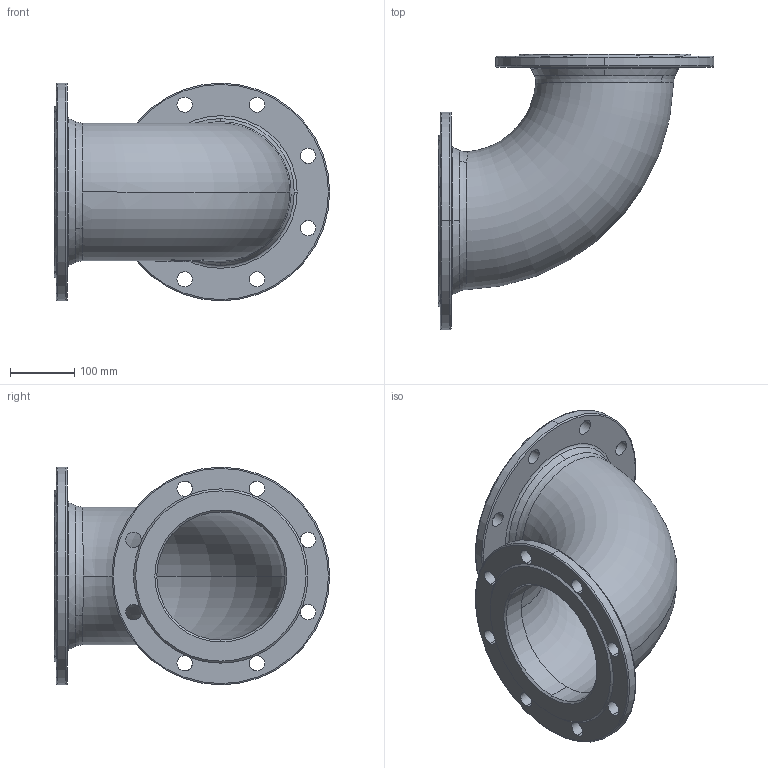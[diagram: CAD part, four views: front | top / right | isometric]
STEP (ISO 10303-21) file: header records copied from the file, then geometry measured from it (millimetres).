
FILE_DESCRIPTION (( 'STEP AP203' ), '1' );
FILE_NAME ('O_712_0610_DN200_0X_REV01.step', '2021-11-19T09:57:00', ( '' ), ( '' ), 'SwSTEP 2.0', 'SolidWorks 2019', '' );
FILE_SCHEMA (( 'CONFIG_CONTROL_DESIGN' ));
Length unit declared in the file: millimetre
Products named in the file (1): O_712_0610_DN200_0X_REV01
Bounding box: 430 x 430 x 340 mm (x, y, z)
Volume: 4031156 mm3; surface area: 783131.2 mm2
Topology: 1 solids, 1 shells, 119 faces, 365 edges, 240 vertices
Faces by surface type: cylinder 42, plane 41, torus 20, cone 12, bspline 4
Entity records: 6397 total; most frequent: CARTESIAN_POINT 3056, ORIENTED_EDGE 730, DIRECTION 661, EDGE_CURVE 365, AXIS2_PLACEMENT_3D 286, VERTEX_POINT 240, CIRCLE 170, EDGE_LOOP 145
